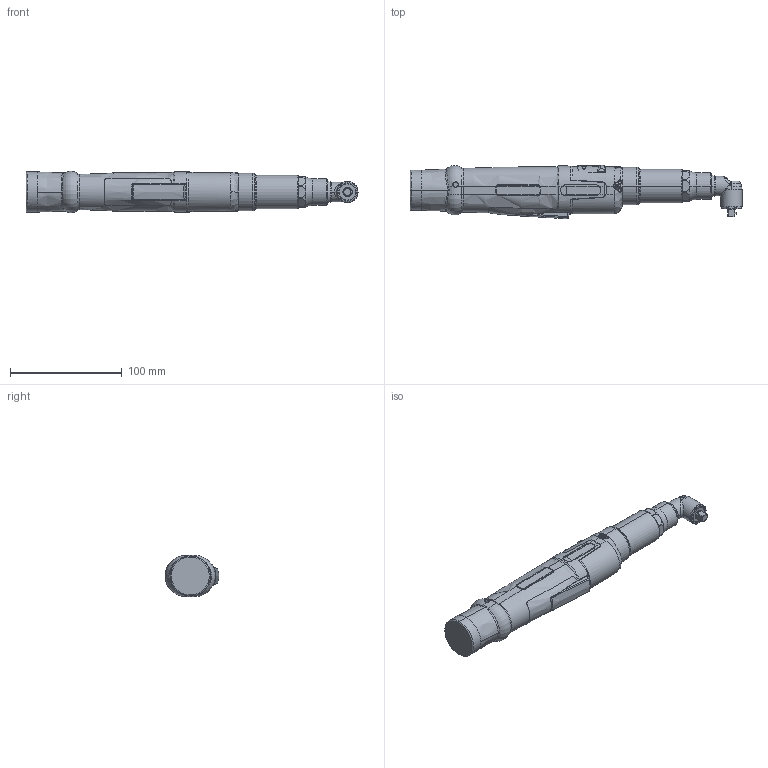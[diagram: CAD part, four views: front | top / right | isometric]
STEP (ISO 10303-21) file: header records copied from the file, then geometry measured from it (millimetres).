
FILE_DESCRIPTION (( 'STEP AP214' ), '1' );
FILE_NAME ('70141261_HSXK1006WV14.STEP', '2021-12-22T06:54:40', ( '' ), ( '' ), 'SwSTEP 2.0', 'SolidWorks 2020', '' );
FILE_SCHEMA (( 'AUTOMOTIVE_DESIGN' ));
Length unit declared in the file: millimetre
Products named in the file (5): 70141220; 70141114; 70141261_HSXK1006WV14; 70141200; 70141211
Assembly tree (4 placements, depth 2):
  70141261_HSXK1006WV14
    70141200
    70141211
    70141114
    70141220
Bounding box: 297.5 x 47.98 x 37 mm (x, y, z)
Volume: 284463.9 mm3; surface area: 50200 mm2
Topology: 4 solids, 5 shells, 947 faces, 2395 edges, 1479 vertices
Faces by surface type: cylinder 307, bspline 253, plane 201, torus 89, cone 66, sphere 31
Entity records: 46531 total; most frequent: CARTESIAN_POINT 25380, ORIENTED_EDGE 4742, DIRECTION 3930, EDGE_CURVE 2371, AXIS2_PLACEMENT_3D 1651, VERTEX_POINT 1477, EDGE_LOOP 994, CIRCLE 950
